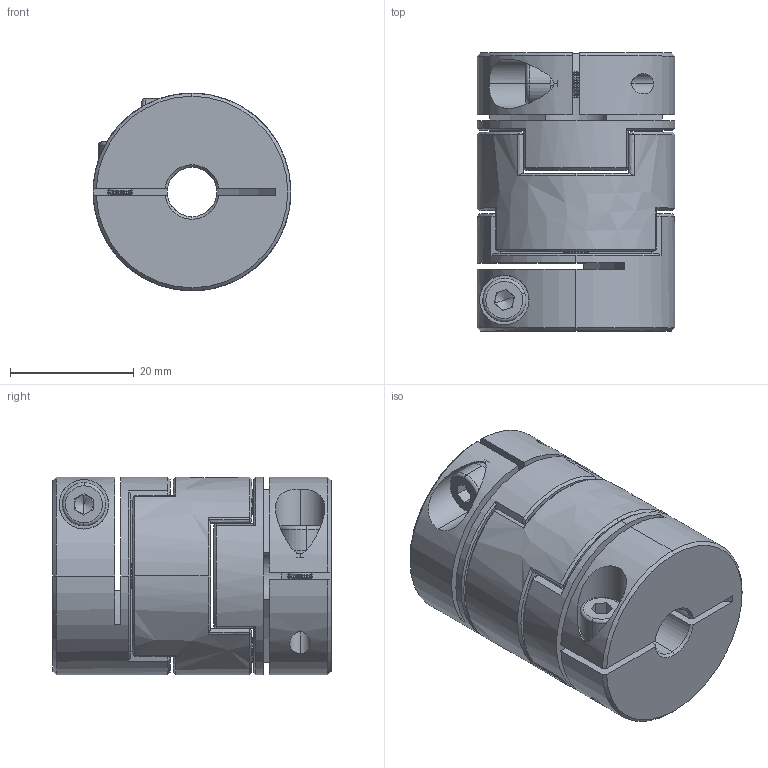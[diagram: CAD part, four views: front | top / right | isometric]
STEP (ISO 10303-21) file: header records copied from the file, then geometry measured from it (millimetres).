
FILE_DESCRIPTION (( 'STEP AP203' ), '1' );
FILE_NAME ('LZ-B-D32L45-8-11.STEP', '2021-10-29T06:38:55', ( '' ), ( '' ), 'SwSTEP 2.0', 'SolidWorks 2018', '' );
FILE_SCHEMA (( 'CONFIG_CONTROL_DESIGN' ));
Length unit declared in the file: millimetre
Products named in the file (1): LZ-B-D32L45-8-11
Bounding box: 32 x 45 x 32 mm (x, y, z)
Volume: 29553.9 mm3; surface area: 13197.2 mm2
Topology: 1 solids, 1 shells, 356 faces, 856 edges, 498 vertices
Faces by surface type: cone 118, cylinder 92, plane 84, bspline 54, torus 8
Entity records: 11145 total; most frequent: CARTESIAN_POINT 3197, ORIENTED_EDGE 1704, DIRECTION 1578, EDGE_CURVE 852, AXIS2_PLACEMENT_3D 619, VERTEX_POINT 498, EDGE_LOOP 382, ADVANCED_FACE 356
